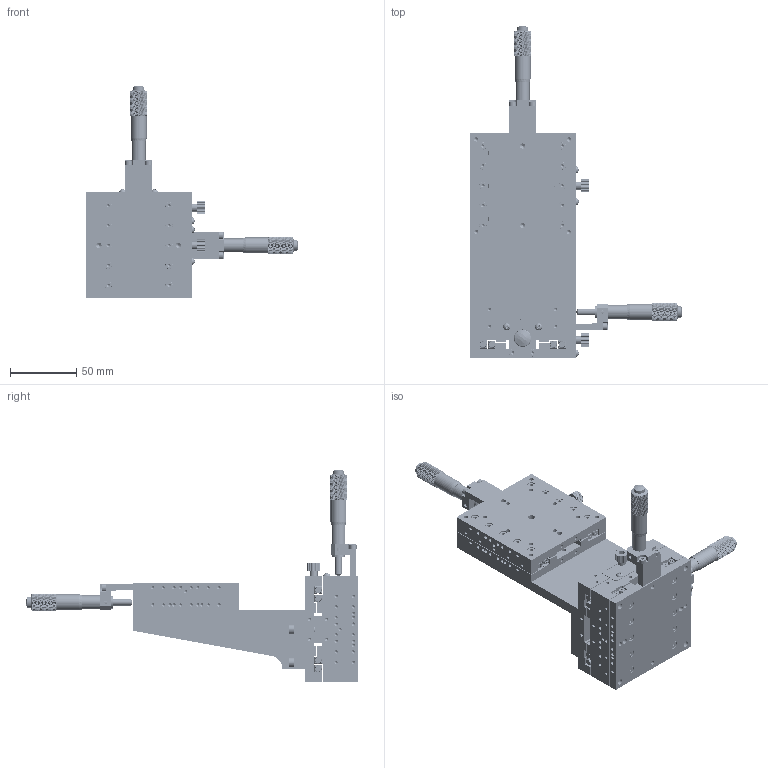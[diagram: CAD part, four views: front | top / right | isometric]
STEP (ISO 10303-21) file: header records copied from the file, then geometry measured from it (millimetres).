
FILE_DESCRIPTION (( 'STEP AP203' ), '1' );
FILE_NAME ('JCXYZ-80C-25.STEP', '2013-12-24T04:27:47', ( 'MMO' ), ( '' ), 'SwSTEP 2.0', 'SolidWorks 2013', '' );
FILE_SCHEMA (( 'CONFIG_CONTROL_DESIGN' ));
Length unit declared in the file: millimetre
Products named in the file (16): JCX-80C-25; JCX-80-02-01; JCX-80CL-25; JV2-75-13; socket head cap screw_ks_KS 1003 - M4 x 6 x 6-N; JCX-60-18T-006; JCXY-80C-25; socket head cap screw_ks_KS 1003 - M3 x 5 x 5-N; JCX-80-003-01; JCX-60-18T-007-002; JCX-80CLZ-25; JALB-73-RS; JCXYZ-80C-25; JCX-80-10-01; round cross head screw_ks_KS 1023 RC - M3 x 5-N; JCX-80-01-01
Assembly tree (115 placements, depth 4):
  JCXYZ-80C-25
    JCXY-80C-25
      JCX-80C-25
        JCX-80-01-01
        JCX-80-02-01
        JV2-75-13  x4
        JCX-60-18T-006
        socket head cap screw_ks_KS 1003 - M3 x 5 x 5-N  x22
        JCX-60-18T-007-002
        JALB-73-RS
        JCX-80-10-01
        round cross head screw_ks_KS 1023 RC - M3 x 5-N  x2
      JCX-80CL-25
        JCX-80-01-01
        JCX-80-02-01
        JV2-75-13  x4
        socket head cap screw_ks_KS 1003 - M3 x 5 x 5-N  x22
        JCX-60-18T-007-002
        JALB-73-RS
        JCX-80-10-01
        JCX-60-18T-006
        round cross head screw_ks_KS 1023 RC - M3 x 5-N  x2
      socket head cap screw_ks_KS 1003 - M4 x 6 x 6-N  x4
    JCX-80-003-01
    JCX-80CLZ-25
      JCX-80-01-01
      JCX-80-02-01
      JV2-75-13  x4
      socket head cap screw_ks_KS 1003 - M3 x 5 x 5-N  x22
      JCX-60-18T-007-002
      JALB-73-RS
      JCX-60-18T-006
      JCX-80-10-01
      round cross head screw_ks_KS 1023 RC - M3 x 5-N  x2
    socket head cap screw_ks_KS 1003 - M4 x 6 x 6-N  x4
Bounding box: 160.7 x 250.7 x 160.7 mm (x, y, z)
Volume: 481674.8 mm3; surface area: 217880.1 mm2
Topology: 111 solids, 111 shells, 9690 faces, 22341 edges, 12846 vertices
Faces by surface type: cylinder 3101, bspline 2880, plane 2441, cone 770, torus 468, sphere 30
Entity records: 85091 total; most frequent: CARTESIAN_POINT 42247, ORIENTED_EDGE 9774, DIRECTION 6081, EDGE_CURVE 4887, VERTEX_POINT 2857, AXIS2_PLACEMENT_3D 2481, EDGE_LOOP 2390, FACE_OUTER_BOUND 2153
